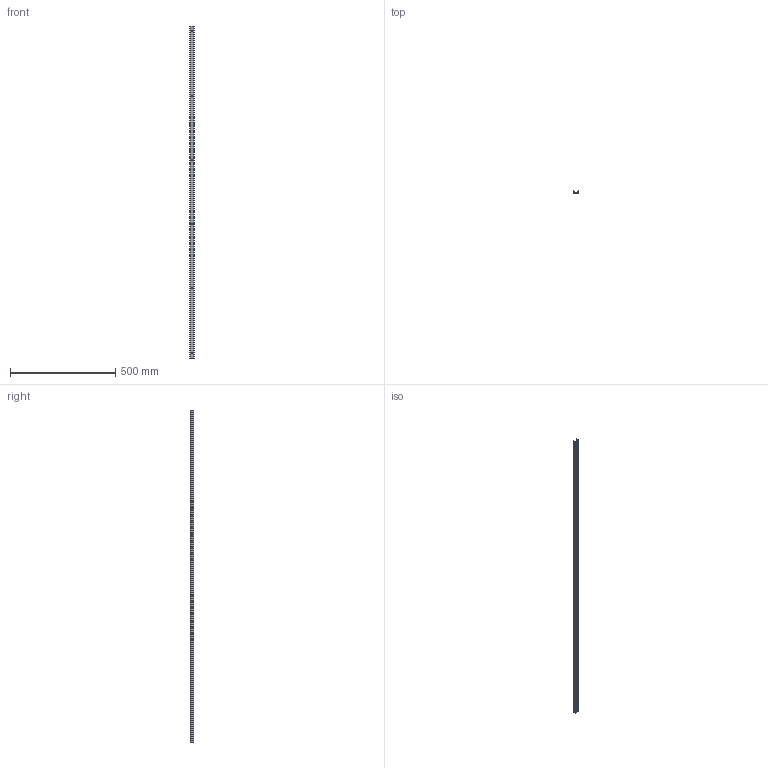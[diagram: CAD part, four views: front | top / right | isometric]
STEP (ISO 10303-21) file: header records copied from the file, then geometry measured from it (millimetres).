
FILE_DESCRIPTION (( 'STEP AP214' ), '1' );
FILE_NAME ('HSG-000401-00 REV C.STEP', '2021-03-02T00:46:09', ( '' ), ( '' ), 'SwSTEP 2.0', 'SolidWorks 2020', '' );
FILE_SCHEMA (( 'AUTOMOTIVE_DESIGN' ));
Length unit declared in the file: millimetre
Products named in the file (1): HSG-000401-00 REV C
Bounding box: 23.7 x 14.5 x 1574.8 mm (x, y, z)
Volume: 129733 mm3; surface area: 190354.4 mm2
Topology: 1 solids, 1 shells, 111 faces, 321 edges, 206 vertices
Faces by surface type: plane 65, cylinder 34, cone 12
Entity records: 3681 total; most frequent: CARTESIAN_POINT 711, ORIENTED_EDGE 642, DIRECTION 601, EDGE_CURVE 321, LINE 217, VECTOR 217, VERTEX_POINT 206, AXIS2_PLACEMENT_3D 192
